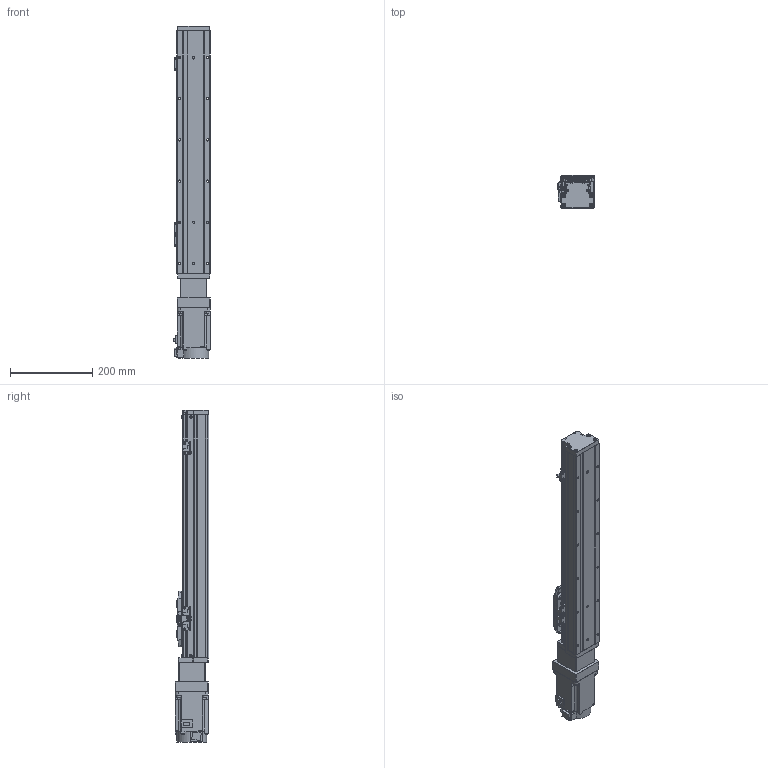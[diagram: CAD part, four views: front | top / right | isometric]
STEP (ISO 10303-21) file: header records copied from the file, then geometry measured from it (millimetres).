
FILE_DESCRIPTION (( 'STEP AP203' ), '1' );
FILE_NAME ('GTH8-400-BC-M75-C4.step', '2023-02-14T02:19:23', ( '微软用户' ), ( '微软中国' ), 'SwSTEP 2.0', 'SolidWorks 2020', '' );
FILE_SCHEMA (( 'CONFIG_CONTROL_DESIGN' ));
Length unit declared in the file: millimetre
Products named in the file (19): GBT 70.3-M3℅6; GBT96.1-2002 3×0.8; GTH80-022; BTH-M3X5X6; GBT 70.1-M3℅6; CTHA86-006-1_CTHA86-006-4; GBT 70.1-M4×16; CTHA86-013; GTH80-001_400; GTH80-028; CTHA86-027; GTH80-006; GTH80-003; GTH50-024; hg-kn73j_-s100; GTH80-013; GTH80-004; GTH50-023; GTH8-400-BC-M75-C4
Assembly tree (60 placements, depth 2):
  GTH8-400-BC-M75-C4
    GTH80-001_400
    GTH80-003
    GTH80-004
    GTH80-006
    GTH80-013
    GBT 70.3-M3℅6  x6
    GTH80-022
    GBT 70.1-M3℅6  x14
    GBT 70.1-M4×16  x8
    GTH80-028  x2
    GTH50-024  x3
    GTH50-023  x3
    GBT96.1-2002 3×0.8  x6
    BTH-M3X5X6  x8
    CTHA86-006-1_CTHA86-006-4
    CTHA86-013
    CTHA86-027
    hg-kn73j_-s100
Bounding box: 89.8 x 81.72 x 807.2 mm (x, y, z)
Volume: 3782559.5 mm3; surface area: 409568.1 mm2
Topology: 62 solids, 62 shells, 2249 faces, 5174 edges, 3152 vertices
Faces by surface type: plane 1185, cylinder 607, cone 285, torus 162, sphere 8, bspline 2
Entity records: 39341 total; most frequent: CARTESIAN_POINT 6482, DIRECTION 6475, ORIENTED_EDGE 5938, EDGE_CURVE 2969, AXIS2_PLACEMENT_3D 2263, VECTOR 1949, LINE 1949, VERTEX_POINT 1865
